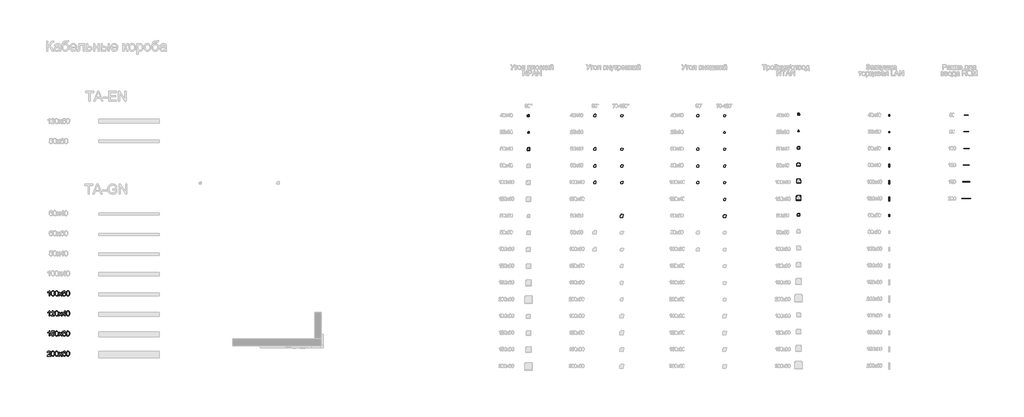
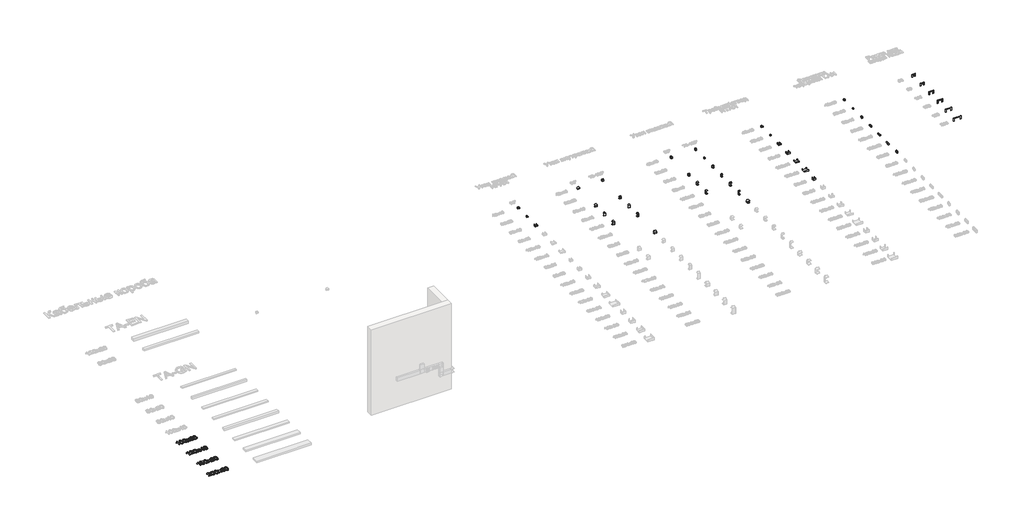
# One storey, part 2 of 28: 37 cable carrier fittings, 10 proxies.
"""IFC4 building model written with IfcOpenShell, lengths in millimetres."""

from ifc_helpers import new_model, si_unit, origin, origin_with_axes, place, context, project, spatial, polyline, outline, extrude, transform, mapped, element, save
from components import electrical_fixtures_9c062871, electrical_fixtures_1bab5402, electrical_fixtures_43228b79, electrical_fixtures_1fa6146b, electrical_fixtures_26f62f1e, electrical_fixtures_be6fdbad, cable_carrier_fitting_6d6397ab, cable_carrier_fitting_56f15a03, cable_carrier_fitting_46b331be, cable_carrier_fitting_994154e6, cable_carrier_fitting_df3f1705, cable_carrier_fitting_e32080dd, cable_carrier_fitting_5f77e72e, cable_carrier_fitting_f86f3801, cable_carrier_fitting_6b526f06, cable_carrier_fitting_899eefb4, cable_carrier_fitting_096d7609, cable_carrier_fitting_4b83aead, cable_carrier_fitting_934f8354, cable_carrier_fitting_116519d1, cable_carrier_fitting_8110d222, cable_carrier_fitting_46b80188, cable_carrier_fitting_0f8daf25, cable_carrier_fitting_9db2d370, cable_carrier_fitting_6e9f0f1c, cable_carrier_fitting_768868bd, cable_carrier_fitting_23137bce, cable_carrier_fitting_88e0e610, cable_carrier_fitting_740a72c5, cable_carrier_fitting_b5b66641, cable_carrier_fitting_7f96d2d7, cable_carrier_fitting_473acd7f, cable_carrier_fitting_3a91f6ff, cable_carrier_fitting_f2974cd6, cable_carrier_fitting_d7720b8f, cable_carrier_fitting_6d36d5f4, cable_carrier_fitting_0baf40f0, cable_carrier_fitting_d6fbcbdb, cable_carrier_fitting_3abe8eb1, cable_carrier_fitting_1446d542, cable_carrier_fitting_89ad0e65, cable_carrier_fitting_4b00b3e3, cable_carrier_fitting_9e77377e

model = new_model("IFC4")

# Units and contexts
model_context = context("Model", 3, world=origin())
ifc_project = project(units=[si_unit("LENGTHUNIT", "METRE", prefix="MILLI")], contexts=[model_context])

# Site, building, storey
site = spatial("IfcSite", under=ifc_project)
building = spatial("IfcBuilding", under=site)
storey = spatial("IfcBuildingStorey", under=building, Name="Этаж 01", Elevation=0.0)

# Proxies
placement = place(None, origin())
element("IfcBuildingElementProxy", 1, Name="150 мм Arial", ObjectType="150 мм Arial", at=placement, inside=storey, context=model_context, shape_type="SweptSolid", body=[
    extrude(outline(polyline([(-501.8873163, -2320.612635), (-520.7228745, -2320.612635), (-520.7228745, -2203.1847022), (-538.5651512, -2215.8950251), (-558.3939908, -2225.4047747), (-558.3939908, -2207.5992861), (-530.784447, -2189.9777385), (-514.0274221, -2169.9281698), (-501.8873163, -2169.9281698), (-501.8873163, -2320.612635)])), origin_with_axes(), (0.0, 0.0, 1.0), 20.0),
    extrude(outline(polyline([(-457.1528657, -2246.484413), (-455.7687097, -2222.3651497), (-451.6162417, -2203.1295199), (-444.7368484, -2188.4832179), (-435.1719165, -2178.1319383), (-422.8524682, -2171.9791119), (-407.7095255, -2169.9281698), (-385.7101822, -2174.7842121), (-370.5166558, -2188.7821221), (-361.6874879, -2211.075771), (-358.2661854, -2246.484413), (-359.6365458, -2270.4657206), (-363.7476271, -2289.6553651), (-370.5856337, -2304.3154626), (-380.13677, -2314.708129), (-392.4838095, -2320.9023421), (-407.7095255, -2322.9670798), (-427.2808477, -2319.3802303), (-442.1432803, -2308.619682), (-453.4004693, -2283.1346568), (-457.1528657, -2246.484413)]), holes=[polyline([(-438.3173075, -2246.4476248), (-436.1100156, -2276.075921), (-429.4881397, -2293.2238205), (-419.6289022, -2301.4045964), (-407.7095255, -2304.1315216), (-395.7901489, -2301.3953993), (-385.9309114, -2293.1870323), (-379.3090355, -2276.0299357), (-377.1017435, -2246.4476248), (-379.2354591, -2217.4861147), (-385.6366058, -2200.204858), (-395.4774492, -2191.6240105), (-407.9302547, -2188.763728), (-419.7208727, -2191.2837196), (-429.1938341, -2198.8436946), (-436.0364392, -2217.2010062), (-438.3173075, -2246.4476248)])]), origin_with_axes(), (0.0, 0.0, 1.0), 20.0),
    extrude(outline(polyline([(-341.785072, -2246.484413), (-340.400916, -2222.3651497), (-336.248448, -2203.1295199), (-329.3690547, -2188.4832179), (-319.8041228, -2178.1319383), (-307.4846745, -2171.9791119), (-292.3417319, -2169.9281698), (-270.3423885, -2174.7842121), (-255.1488621, -2188.7821221), (-246.3196943, -2211.075771), (-242.8983917, -2246.484413), (-244.2687521, -2270.4657206), (-248.3798334, -2289.6553651), (-255.21784, -2304.3154626), (-264.7689763, -2314.708129), (-277.1160158, -2320.9023421), (-292.3417319, -2322.9670798), (-311.913054, -2319.3802303), (-326.7754866, -2308.619682), (-338.0326757, -2283.1346568), (-341.785072, -2246.484413)]), holes=[polyline([(-322.9495139, -2246.4476248), (-320.7422219, -2276.075921), (-314.120346, -2293.2238205), (-304.2611085, -2301.4045964), (-292.3417319, -2304.1315216), (-280.4223552, -2301.3953993), (-270.5631177, -2293.1870323), (-263.9412418, -2276.0299357), (-261.7339499, -2246.4476248), (-263.8676654, -2217.4861147), (-270.2688121, -2200.204858), (-280.1096555, -2191.6240105), (-292.5624611, -2188.763728), (-304.353079, -2191.2837196), (-313.8260404, -2198.8436946), (-320.6686455, -2217.2010062), (-322.9495139, -2246.4476248)])]), origin_with_axes(), (0.0, 0.0, 1.0), 20.0),
    extrude(outline(polyline([(-233.4806126, -2320.612635), (-193.2343224, -2264.9888774), (-231.1261679, -2209.9537309), (-208.464637, -2209.9537309), (-190.1809018, -2236.4412345), (-181.6460395, -2248.9492224), (-174.2516114, -2238.7221029), (-153.4294905, -2209.9537309), (-130.7679596, -2209.9537309), (-170.5727915, -2264.9888774), (-132.2394876, -2320.612635), (-154.9010185, -2320.612635), (-177.9672196, -2287.1721617), (-182.1978625, -2281.0653206), (-210.8190817, -2320.612635), (-233.4806126, -2320.612635)])), origin_with_axes(), (0.0, 0.0, 1.0), 20.0),
    extrude(outline(polyline([(-23.9350282, -2209.9537309), (-42.7705863, -2212.3081757), (-49.907497, -2196.5996145), (-58.4515564, -2190.7226996), (-68.7798434, -2188.763728), (-85.7759916, -2193.3254647), (-98.6334673, -2210.4503716), (-102.537615, -2224.4804712), (-103.9861503, -2244.0196036), (-87.3762782, -2228.9916241), (-66.7932806, -2224.0803995), (-49.3924622, -2227.4373227), (-34.787547, -2237.5080923), (-24.8823243, -2252.8947568), (-21.5805834, -2272.1993645), (-23.1348848, -2285.6868381), (-27.7977891, -2298.1902274), (-35.1830202, -2308.7944259), (-44.9043019, -2316.5843272), (-56.5201759, -2321.3713916), (-69.5891838, -2322.9670798), (-90.9585292, -2318.7364369), (-107.97767, -2306.044508), (-119.1106988, -2283.6404945), (-122.8217085, -2250.2735976), (-118.7014301, -2212.7588311), (-106.3405951, -2187.108259), (-89.4640086, -2174.2231921), (-67.602621, -2169.9281698), (-51.0755224, -2172.5861172), (-37.8409676, -2180.5599595), (-28.5703413, -2193.2242972), (-23.9350282, -2209.9537309)]), holes=[polyline([(-103.9861503, -2271.9050589), (-99.6267487, -2288.2206254), (-88.0384658, -2300.0664256), (-71.0607118, -2304.1315216), (-58.6308988, -2302.0253972), (-48.8590333, -2295.707024), (-42.5268645, -2285.7742101), (-40.4161416, -2272.8247639), (-42.4992734, -2260.3949509), (-48.7486687, -2250.917391), (-58.6860811, -2244.916316), (-71.8332639, -2242.9159577), (-84.2446828, -2244.916316), (-94.6235535, -2250.917391), (-101.6455011, -2260.1650247), (-103.9861503, -2271.9050589)])]), origin_with_axes(), (0.0, 0.0, 1.0), 20.0),
    extrude(outline(polyline([(-5.09947, -2246.484413), (-3.715314, -2222.3651497), (0.437154, -2203.1295199), (7.3165473, -2188.4832179), (16.8814792, -2178.1319383), (29.2009275, -2171.9791119), (44.3438701, -2169.9281698), (66.3432134, -2174.7842121), (81.5367398, -2188.7821221), (90.3659077, -2211.075771), (93.7872103, -2246.484413), (92.4168499, -2270.4657206), (88.3057686, -2289.6553651), (81.467762, -2304.3154626), (71.9166257, -2314.708129), (59.5695862, -2320.9023421), (44.3438701, -2322.9670798), (24.772548, -2319.3802303), (9.9101154, -2308.619682), (-1.3470737, -2283.1346568), (-5.09947, -2246.484413)]), holes=[polyline([(13.7360881, -2246.4476248), (15.9433801, -2276.075921), (22.565256, -2293.2238205), (32.4244935, -2301.4045964), (44.3438701, -2304.1315216), (56.2632468, -2301.3953993), (66.1224842, -2293.1870323), (72.7443602, -2276.0299357), (74.9516521, -2246.4476248), (72.8179366, -2217.4861147), (66.4167898, -2200.204858), (56.5759465, -2191.6240105), (44.1231409, -2188.763728), (32.332523, -2191.2837196), (22.8595616, -2198.8436946), (16.0169565, -2217.2010062), (13.7360881, -2246.4476248)])]), origin_with_axes(), (0.0, 0.0, 1.0), 20.0),
])
element("IfcBuildingElementProxy", 2, Name="150 мм Arial", ObjectType="150 мм Arial", at=placement, inside=storey, context=model_context, shape_type="SweptSolid", body=[
    extrude(outline(polyline([(-501.8873163, -2920.612635), (-520.7228745, -2920.612635), (-520.7228745, -2803.1847022), (-538.5651512, -2815.8950251), (-558.3939908, -2825.4047747), (-558.3939908, -2807.5992861), (-530.784447, -2789.9777385), (-514.0274221, -2769.9281698), (-501.8873163, -2769.9281698), (-501.8873163, -2920.612635)])), origin_with_axes(), (0.0, 0.0, 1.0), 20.0),
    extrude(outline(polyline([(-360.6206302, -2901.7770769), (-360.6206302, -2920.612635), (-459.5073105, -2920.612635), (-457.4839595, -2907.6264006), (-446.0428294, -2887.6320142), (-422.4615935, -2865.7982178), (-389.9408252, -2834.4178836), (-383.8431811, -2823.6021529), (-381.8106331, -2813.0807278), (-383.728218, -2803.6491532), (-389.4809727, -2795.8086682), (-398.3239361, -2790.524963), (-409.5121473, -2788.763728), (-421.2613785, -2790.4835763), (-430.3894505, -2795.6431213), (-436.280161, -2803.8376927), (-438.3173075, -2814.6626204), (-457.1528657, -2812.3081757), (-452.5865304, -2794.0888198), (-442.7134974, -2780.7806887), (-428.0488013, -2772.6412995), (-409.1074771, -2769.9281698), (-390.0281971, -2772.9448022), (-375.3910923, -2781.9946993), (-366.0790793, -2795.5143626), (-362.9750749, -2811.9402937), (-366.3228011, -2829.8009645), (-377.4512314, -2848.2686407), (-404.4353758, -2874.0755626), (-426.1036253, -2892.1937509), (-434.6016994, -2901.7770769), (-360.6206302, -2901.7770769)])), origin_with_axes(), (0.0, 0.0, 1.0), 20.0),
    extrude(outline(polyline([(-341.785072, -2846.484413), (-340.400916, -2822.3651497), (-336.248448, -2803.1295199), (-329.3690547, -2788.4832179), (-319.8041228, -2778.1319383), (-307.4846745, -2771.9791119), (-292.3417319, -2769.9281698), (-270.3423885, -2774.7842121), (-255.1488621, -2788.7821221), (-246.3196943, -2811.075771), (-242.8983917, -2846.484413), (-244.2687521, -2870.4657206), (-248.3798334, -2889.6553651), (-255.21784, -2904.3154626), (-264.7689763, -2914.708129), (-277.1160158, -2920.9023421), (-292.3417319, -2922.9670798), (-311.913054, -2919.3802303), (-326.7754866, -2908.619682), (-338.0326757, -2883.1346568), (-341.785072, -2846.484413)]), holes=[polyline([(-322.9495139, -2846.4476248), (-320.7422219, -2876.075921), (-314.120346, -2893.2238205), (-304.2611085, -2901.4045964), (-292.3417319, -2904.1315216), (-280.4223552, -2901.3953993), (-270.5631177, -2893.1870323), (-263.9412418, -2876.0299357), (-261.7339499, -2846.4476248), (-263.8676654, -2817.4861147), (-270.2688121, -2800.204858), (-280.1096555, -2791.6240105), (-292.5624611, -2788.763728), (-304.353079, -2791.2837196), (-313.8260404, -2798.8436946), (-320.6686455, -2817.2010062), (-322.9495139, -2846.4476248)])]), origin_with_axes(), (0.0, 0.0, 1.0), 20.0),
    extrude(outline(polyline([(-233.4806126, -2920.612635), (-193.2343224, -2864.9888774), (-231.1261679, -2809.9537309), (-208.464637, -2809.9537309), (-190.1809018, -2836.4412345), (-181.6460395, -2848.9492224), (-174.2516114, -2838.7221029), (-153.4294905, -2809.9537309), (-130.7679596, -2809.9537309), (-170.5727915, -2864.9888774), (-132.2394876, -2920.612635), (-154.9010185, -2920.612635), (-177.9672196, -2887.1721617), (-182.1978625, -2881.0653206), (-210.8190817, -2920.612635), (-233.4806126, -2920.612635)])), origin_with_axes(), (0.0, 0.0, 1.0), 20.0),
    extrude(outline(polyline([(-59.2516997, -2920.612635), (-59.2516997, -2885.2959635), (-127.530598, -2885.2959635), (-127.530598, -2866.4604053), (-54.5428102, -2772.2826146), (-40.4161416, -2772.2826146), (-40.4161416, -2866.4604053), (-21.5805834, -2866.4604053), (-21.5805834, -2885.2959635), (-40.4161416, -2885.2959635), (-40.4161416, -2920.612635), (-59.2516997, -2920.612635)]), holes=[polyline([(-59.2516997, -2866.4604053), (-59.2516997, -2808.2614737), (-104.3540323, -2866.4604053), (-59.2516997, -2866.4604053)])]), origin_with_axes(), (0.0, 0.0, 1.0), 20.0),
    extrude(outline(polyline([(-5.09947, -2846.484413), (-3.715314, -2822.3651497), (0.437154, -2803.1295199), (7.3165473, -2788.4832179), (16.8814792, -2778.1319383), (29.2009275, -2771.9791119), (44.3438701, -2769.9281698), (66.3432134, -2774.7842121), (81.5367398, -2788.7821221), (90.3659077, -2811.075771), (93.7872103, -2846.484413), (92.4168499, -2870.4657206), (88.3057686, -2889.6553651), (81.467762, -2904.3154626), (71.9166257, -2914.708129), (59.5695862, -2920.9023421), (44.3438701, -2922.9670798), (24.772548, -2919.3802303), (9.9101154, -2908.619682), (-1.3470737, -2883.1346568), (-5.09947, -2846.484413)]), holes=[polyline([(13.7360881, -2846.4476248), (15.9433801, -2876.075921), (22.565256, -2893.2238205), (32.4244935, -2901.4045964), (44.3438701, -2904.1315216), (56.2632468, -2901.3953993), (66.1224842, -2893.1870323), (72.7443602, -2876.0299357), (74.9516521, -2846.4476248), (72.8179366, -2817.4861147), (66.4167898, -2800.204858), (56.5759465, -2791.6240105), (44.1231409, -2788.763728), (32.332523, -2791.2837196), (22.8595616, -2798.8436946), (16.0169565, -2817.2010062), (13.7360881, -2846.4476248)])]), origin_with_axes(), (0.0, 0.0, 1.0), 20.0),
])
element("IfcBuildingElementProxy", 3, Name="150 мм Arial", ObjectType="150 мм Arial", at=placement, inside=storey, context=model_context, shape_type="SweptSolid", body=[
    extrude(outline(polyline([(-501.8873163, -3520.612635), (-520.7228745, -3520.612635), (-520.7228745, -3403.1847022), (-538.5651512, -3415.8950251), (-558.3939908, -3425.4047747), (-558.3939908, -3407.5992861), (-530.784447, -3389.9777385), (-514.0274221, -3369.9281698), (-501.8873163, -3369.9281698), (-501.8873163, -3520.612635)])), origin_with_axes(), (0.0, 0.0, 1.0), 20.0),
    extrude(outline(polyline([(-457.1528657, -3480.587074), (-438.3173075, -3478.2326292), (-434.8592168, -3489.540402), (-428.8259521, -3497.6384044), (-420.2451045, -3502.5082423), (-409.1442653, -3504.1315216), (-395.6429961, -3501.8736459), (-385.5262412, -3495.1000187), (-379.207868, -3484.5923892), (-377.1017435, -3471.1325067), (-379.0745107, -3458.4589719), (-384.9928123, -3448.7652814), (-394.9026336, -3442.612455), (-408.8499597, -3440.5615129), (-425.3862554, -3443.8356626), (-435.9628628, -3452.3337367), (-454.7984209, -3449.979292), (-438.3173075, -3372.2826146), (-365.3295197, -3372.2826146), (-365.3295197, -3391.1181727), (-423.0869929, -3391.1181727), (-431.1436086, -3432.6152618), (-417.6883247, -3424.4482815), (-403.5892472, -3421.7259547), (-385.9906923, -3425.101272), (-371.3811785, -3435.227224), (-361.5449337, -3450.6598736), (-358.2661854, -3469.9552843), (-361.2184384, -3488.7908425), (-370.0751974, -3504.9040738), (-387.0345574, -3518.4513283), (-409.2178417, -3522.9670798), (-427.7177076, -3520.0654106), (-442.45598, -3511.3604029), (-452.5589393, -3497.8637322), (-457.1528657, -3480.587074)])), origin_with_axes(), (0.0, 0.0, 1.0), 20.0),
    extrude(outline(polyline([(-341.785072, -3446.484413), (-340.400916, -3422.3651497), (-336.248448, -3403.1295199), (-329.3690547, -3388.4832179), (-319.8041228, -3378.1319383), (-307.4846745, -3371.9791119), (-292.3417319, -3369.9281698), (-270.3423885, -3374.7842121), (-255.1488621, -3388.7821221), (-246.3196943, -3411.075771), (-242.8983917, -3446.484413), (-244.2687521, -3470.4657206), (-248.3798334, -3489.6553651), (-255.21784, -3504.3154626), (-264.7689763, -3514.708129), (-277.1160158, -3520.9023421), (-292.3417319, -3522.9670798), (-311.913054, -3519.3802303), (-326.7754866, -3508.619682), (-338.0326757, -3483.1346568), (-341.785072, -3446.484413)]), holes=[polyline([(-322.9495139, -3446.4476248), (-320.7422219, -3476.075921), (-314.120346, -3493.2238205), (-304.2611085, -3501.4045964), (-292.3417319, -3504.1315216), (-280.4223552, -3501.3953993), (-270.5631177, -3493.1870323), (-263.9412418, -3476.0299357), (-261.7339499, -3446.4476248), (-263.8676654, -3417.4861147), (-270.2688121, -3400.204858), (-280.1096555, -3391.6240105), (-292.5624611, -3388.763728), (-304.353079, -3391.2837196), (-313.8260404, -3398.8436946), (-320.6686455, -3417.2010062), (-322.9495139, -3446.4476248)])]), origin_with_axes(), (0.0, 0.0, 1.0), 20.0),
    extrude(outline(polyline([(-233.4806126, -3520.612635), (-193.2343224, -3464.9888774), (-231.1261679, -3409.9537309), (-208.464637, -3409.9537309), (-190.1809018, -3436.4412345), (-181.6460395, -3448.9492224), (-174.2516114, -3438.7221029), (-153.4294905, -3409.9537309), (-130.7679596, -3409.9537309), (-170.5727915, -3464.9888774), (-132.2394876, -3520.612635), (-154.9010185, -3520.612635), (-177.9672196, -3487.1721617), (-182.1978625, -3481.0653206), (-210.8190817, -3520.612635), (-233.4806126, -3520.612635)])), origin_with_axes(), (0.0, 0.0, 1.0), 20.0),
    extrude(outline(polyline([(-23.9350282, -3409.9537309), (-42.7705863, -3412.3081757), (-49.907497, -3396.5996145), (-58.4515564, -3390.7226996), (-68.7798434, -3388.763728), (-85.7759916, -3393.3254647), (-98.6334673, -3410.4503716), (-102.537615, -3424.4804712), (-103.9861503, -3444.0196036), (-87.3762782, -3428.9916241), (-66.7932806, -3424.0803995), (-49.3924622, -3427.4373227), (-34.787547, -3437.5080923), (-24.8823243, -3452.8947568), (-21.5805834, -3472.1993645), (-23.1348848, -3485.6868381), (-27.7977891, -3498.1902274), (-35.1830202, -3508.7944259), (-44.9043019, -3516.5843272), (-56.5201759, -3521.3713916), (-69.5891838, -3522.9670798), (-90.9585292, -3518.7364369), (-107.97767, -3506.044508), (-119.1106988, -3483.6404945), (-122.8217085, -3450.2735976), (-118.7014301, -3412.7588311), (-106.3405951, -3387.108259), (-89.4640086, -3374.2231921), (-67.602621, -3369.9281698), (-51.0755224, -3372.5861172), (-37.8409676, -3380.5599595), (-28.5703413, -3393.2242972), (-23.9350282, -3409.9537309)]), holes=[polyline([(-103.9861503, -3471.9050589), (-99.6267487, -3488.2206254), (-88.0384658, -3500.0664256), (-71.0607118, -3504.1315216), (-58.6308988, -3502.0253972), (-48.8590333, -3495.707024), (-42.5268645, -3485.7742101), (-40.4161416, -3472.8247639), (-42.4992734, -3460.3949509), (-48.7486687, -3450.917391), (-58.6860811, -3444.916316), (-71.8332639, -3442.9159577), (-84.2446828, -3444.916316), (-94.6235535, -3450.917391), (-101.6455011, -3460.1650247), (-103.9861503, -3471.9050589)])]), origin_with_axes(), (0.0, 0.0, 1.0), 20.0),
    extrude(outline(polyline([(-5.09947, -3446.484413), (-3.715314, -3422.3651497), (0.437154, -3403.1295199), (7.3165473, -3388.4832179), (16.8814792, -3378.1319383), (29.2009275, -3371.9791119), (44.3438701, -3369.9281698), (66.3432134, -3374.7842121), (81.5367398, -3388.7821221), (90.3659077, -3411.075771), (93.7872103, -3446.484413), (92.4168499, -3470.4657206), (88.3057686, -3489.6553651), (81.467762, -3504.3154626), (71.9166257, -3514.708129), (59.5695862, -3520.9023421), (44.3438701, -3522.9670798), (24.772548, -3519.3802303), (9.9101154, -3508.619682), (-1.3470737, -3483.1346568), (-5.09947, -3446.484413)]), holes=[polyline([(13.7360881, -3446.4476248), (15.9433801, -3476.075921), (22.565256, -3493.2238205), (32.4244935, -3501.4045964), (44.3438701, -3504.1315216), (56.2632468, -3501.3953993), (66.1224842, -3493.1870323), (72.7443602, -3476.0299357), (74.9516521, -3446.4476248), (72.8179366, -3417.4861147), (66.4167898, -3400.204858), (56.5759465, -3391.6240105), (44.1231409, -3388.763728), (32.332523, -3391.2837196), (22.8595616, -3398.8436946), (16.0169565, -3417.2010062), (13.7360881, -3446.4476248)])]), origin_with_axes(), (0.0, 0.0, 1.0), 20.0),
])
element("IfcBuildingElementProxy", 4, Name="150 мм Arial", ObjectType="150 мм Arial", at=placement, inside=storey, context=model_context, shape_type="SweptSolid", body=[
    extrude(outline(polyline([(-475.9884238, -4101.7770769), (-475.9884238, -4120.612635), (-574.8751041, -4120.612635), (-572.8517532, -4107.6264006), (-561.4106231, -4087.6320142), (-537.8293872, -4065.7982178), (-505.3086189, -4034.4178836), (-499.2109748, -4023.6021529), (-497.1784268, -4013.0807278), (-499.0960117, -4003.6491532), (-504.8487664, -3995.8086682), (-513.6917298, -3990.524963), (-524.879941, -3988.763728), (-536.6291722, -3990.4835763), (-545.7572442, -3995.6431213), (-551.6479547, -4003.8376927), (-553.6851012, -4014.6626204), (-572.5206594, -4012.3081757), (-567.9543241, -3994.0888198), (-558.0812911, -3980.7806887), (-543.416595, -3972.6412995), (-524.4752708, -3969.9281698), (-505.3959908, -3972.9448022), (-490.758886, -3981.9946993), (-481.4468729, -3995.5143626), (-478.3428686, -4011.9402937), (-481.6905948, -4029.8009645), (-492.8190251, -4048.2686407), (-519.8031695, -4074.0755626), (-541.471419, -4092.1937509), (-549.9694931, -4101.7770769), (-475.9884238, -4101.7770769)])), origin_with_axes(), (0.0, 0.0, 1.0), 20.0),
    extrude(outline(polyline([(-457.1528657, -4046.484413), (-455.7687097, -4022.3651497), (-451.6162417, -4003.1295199), (-444.7368484, -3988.4832179), (-435.1719165, -3978.1319383), (-422.8524682, -3971.9791119), (-407.7095255, -3969.9281698), (-385.7101822, -3974.7842121), (-370.5166558, -3988.7821221), (-361.6874879, -4011.075771), (-358.2661854, -4046.484413), (-359.6365458, -4070.4657206), (-363.7476271, -4089.6553651), (-370.5856337, -4104.3154626), (-380.13677, -4114.708129), (-392.4838095, -4120.9023421), (-407.7095255, -4122.9670798), (-427.2808477, -4119.3802303), (-442.1432803, -4108.619682), (-453.4004693, -4083.1346568), (-457.1528657, -4046.484413)]), holes=[polyline([(-438.3173075, -4046.4476248), (-436.1100156, -4076.075921), (-429.4881397, -4093.2238205), (-419.6289022, -4101.4045964), (-407.7095255, -4104.1315216), (-395.7901489, -4101.3953993), (-385.9309114, -4093.1870323), (-379.3090355, -4076.0299357), (-377.1017435, -4046.4476248), (-379.2354591, -4017.4861147), (-385.6366058, -4000.204858), (-395.4774492, -3991.6240105), (-407.9302547, -3988.763728), (-419.7208727, -3991.2837196), (-429.1938341, -3998.8436946), (-436.0364392, -4017.2010062), (-438.3173075, -4046.4476248)])]), origin_with_axes(), (0.0, 0.0, 1.0), 20.0),
    extrude(outline(polyline([(-341.785072, -4046.484413), (-340.400916, -4022.3651497), (-336.248448, -4003.1295199), (-329.3690547, -3988.4832179), (-319.8041228, -3978.1319383), (-307.4846745, -3971.9791119), (-292.3417319, -3969.9281698), (-270.3423885, -3974.7842121), (-255.1488621, -3988.7821221), (-246.3196943, -4011.075771), (-242.8983917, -4046.484413), (-244.2687521, -4070.4657206), (-248.3798334, -4089.6553651), (-255.21784, -4104.3154626), (-264.7689763, -4114.708129), (-277.1160158, -4120.9023421), (-292.3417319, -4122.9670798), (-311.913054, -4119.3802303), (-326.7754866, -4108.619682), (-338.0326757, -4083.1346568), (-341.785072, -4046.484413)]), holes=[polyline([(-322.9495139, -4046.4476248), (-320.7422219, -4076.075921), (-314.120346, -4093.2238205), (-304.2611085, -4101.4045964), (-292.3417319, -4104.1315216), (-280.4223552, -4101.3953993), (-270.5631177, -4093.1870323), (-263.9412418, -4076.0299357), (-261.7339499, -4046.4476248), (-263.8676654, -4017.4861147), (-270.2688121, -4000.204858), (-280.1096555, -3991.6240105), (-292.5624611, -3988.763728), (-304.353079, -3991.2837196), (-313.8260404, -3998.8436946), (-320.6686455, -4017.2010062), (-322.9495139, -4046.4476248)])]), origin_with_axes(), (0.0, 0.0, 1.0), 20.0),
    extrude(outline(polyline([(-233.4806126, -4120.612635), (-193.2343224, -4064.9888774), (-231.1261679, -4009.9537309), (-208.464637, -4009.9537309), (-190.1809018, -4036.4412345), (-181.6460395, -4048.9492224), (-174.2516114, -4038.7221029), (-153.4294905, -4009.9537309), (-130.7679596, -4009.9537309), (-170.5727915, -4064.9888774), (-132.2394876, -4120.612635), (-154.9010185, -4120.612635), (-177.9672196, -4087.1721617), (-182.1978625, -4081.0653206), (-210.8190817, -4120.612635), (-233.4806126, -4120.612635)])), origin_with_axes(), (0.0, 0.0, 1.0), 20.0),
    extrude(outline(polyline([(-23.9350282, -4009.9537309), (-42.7705863, -4012.3081757), (-49.907497, -3996.5996145), (-58.4515564, -3990.7226996), (-68.7798434, -3988.763728), (-85.7759916, -3993.3254647), (-98.6334673, -4010.4503716), (-102.537615, -4024.4804712), (-103.9861503, -4044.0196036), (-87.3762782, -4028.9916241), (-66.7932806, -4024.0803995), (-49.3924622, -4027.4373227), (-34.787547, -4037.5080923), (-24.8823243, -4052.8947568), (-21.5805834, -4072.1993645), (-23.1348848, -4085.6868381), (-27.7977891, -4098.1902274), (-35.1830202, -4108.7944259), (-44.9043019, -4116.5843272), (-56.5201759, -4121.3713916), (-69.5891838, -4122.9670798), (-90.9585292, -4118.7364369), (-107.97767, -4106.044508), (-119.1106988, -4083.6404945), (-122.8217085, -4050.2735976), (-118.7014301, -4012.7588311), (-106.3405951, -3987.108259), (-89.4640086, -3974.2231921), (-67.602621, -3969.9281698), (-51.0755224, -3972.5861172), (-37.8409676, -3980.5599595), (-28.5703413, -3993.2242972), (-23.9350282, -4009.9537309)]), holes=[polyline([(-103.9861503, -4071.9050589), (-99.6267487, -4088.2206254), (-88.0384658, -4100.0664256), (-71.0607118, -4104.1315216), (-58.6308988, -4102.0253972), (-48.8590333, -4095.707024), (-42.5268645, -4085.7742101), (-40.4161416, -4072.8247639), (-42.4992734, -4060.3949509), (-48.7486687, -4050.917391), (-58.6860811, -4044.916316), (-71.8332639, -4042.9159577), (-84.2446828, -4044.916316), (-94.6235535, -4050.917391), (-101.6455011, -4060.1650247), (-103.9861503, -4071.9050589)])]), origin_with_axes(), (0.0, 0.0, 1.0), 20.0),
    extrude(outline(polyline([(-5.09947, -4046.484413), (-3.715314, -4022.3651497), (0.437154, -4003.1295199), (7.3165473, -3988.4832179), (16.8814792, -3978.1319383), (29.2009275, -3971.9791119), (44.3438701, -3969.9281698), (66.3432134, -3974.7842121), (81.5367398, -3988.7821221), (90.3659077, -4011.075771), (93.7872103, -4046.484413), (92.4168499, -4070.4657206), (88.3057686, -4089.6553651), (81.467762, -4104.3154626), (71.9166257, -4114.708129), (59.5695862, -4120.9023421), (44.3438701, -4122.9670798), (24.772548, -4119.3802303), (9.9101154, -4108.619682), (-1.3470737, -4083.1346568), (-5.09947, -4046.484413)]), holes=[polyline([(13.7360881, -4046.4476248), (15.9433801, -4076.075921), (22.565256, -4093.2238205), (32.4244935, -4101.4045964), (44.3438701, -4104.1315216), (56.2632468, -4101.3953993), (66.1224842, -4093.1870323), (72.7443602, -4076.0299357), (74.9516521, -4046.4476248), (72.8179366, -4017.4861147), (66.4167898, -4000.204858), (56.5759465, -3991.6240105), (44.1231409, -3988.763728), (32.332523, -3991.2837196), (22.8595616, -3998.8436946), (16.0169565, -4017.2010062), (13.7360881, -4046.4476248)])]), origin_with_axes(), (0.0, 0.0, 1.0), 20.0),
])
electrical_fixtures_shape = electrical_fixtures_9c062871(model_context)
element("IfcBuildingElementProxy", 5, Name="КНС_РамкаДляВводаRQM_ILC_DKC : TA-GN 60x...", ObjectType="КНС_РамкаДляВводаRQM_ILC_DKC : TA-GN 60x...", at=placement, inside=storey, context=model_context, shape_type="MappedRepresentation", body=[
    mapped(electrical_fixtures_shape, transform((26885.9059986, 3093.7133038, 0.0), x_axis=(1.0, 0.0, 0.0), y_axis=(0.0, 1.0, 0.0), z_axis=(0.0, 0.0, 1.0))),
])
electrical_fixtures_2_shape = electrical_fixtures_1bab5402(model_context)
element("IfcBuildingElementProxy", 6, Name="КНС_РамкаДляВводаRQM_ILC_DKC : TA-GN 60x...", ObjectType="КНС_РамкаДляВводаRQM_ILC_DKC : TA-GN 60x...", at=placement, inside=storey, context=model_context, shape_type="MappedRepresentation", body=[
    mapped(electrical_fixtures_2_shape, transform((26885.9059986, 2593.7133038, 0.0), x_axis=(1.0, 0.0, 0.0), y_axis=(0.0, 1.0, 0.0), z_axis=(0.0, 0.0, 1.0))),
])
electrical_fixtures_3_shape = electrical_fixtures_43228b79(model_context)
element("IfcBuildingElementProxy", 7, Name="КНС_РамкаДляВводаRQM_ILC_DKC : TA-GN 60x...", ObjectType="КНС_РамкаДляВводаRQM_ILC_DKC : TA-GN 60x...", at=placement, inside=storey, context=model_context, shape_type="MappedRepresentation", body=[
    mapped(electrical_fixtures_3_shape, transform((26885.9059986, 2093.7133038, 0.0), x_axis=(1.0, 0.0, 0.0), y_axis=(0.0, 1.0, 0.0), z_axis=(0.0, 0.0, 1.0))),
])
electrical_fixtures_4_shape = electrical_fixtures_1fa6146b(model_context)
element("IfcBuildingElementProxy", 8, Name="КНС_РамкаДляВводаRQM_ILC_DKC : TA-GN 60x...", ObjectType="КНС_РамкаДляВводаRQM_ILC_DKC : TA-GN 60x...", at=placement, inside=storey, context=model_context, shape_type="MappedRepresentation", body=[
    mapped(electrical_fixtures_4_shape, transform((26885.9059986, 1593.7133038, 0.0), x_axis=(1.0, 0.0, 0.0), y_axis=(0.0, 1.0, 0.0), z_axis=(0.0, 0.0, 1.0))),
])
electrical_fixtures_5_shape = electrical_fixtures_26f62f1e(model_context)
element("IfcBuildingElementProxy", 9, Name="КНС_РамкаДляВводаRQM_ILC_DKC : TA-GN 60x...", ObjectType="КНС_РамкаДляВводаRQM_ILC_DKC : TA-GN 60x...", at=placement, inside=storey, context=model_context, shape_type="MappedRepresentation", body=[
    mapped(electrical_fixtures_5_shape, transform((26885.9059986, 1093.7133038, 0.0), x_axis=(1.0, 0.0, 0.0), y_axis=(0.0, 1.0, 0.0), z_axis=(0.0, 0.0, 1.0))),
])
electrical_fixtures_6_shape = electrical_fixtures_be6fdbad(model_context)
element("IfcBuildingElementProxy", 10, Name="КНС_РамкаДляВводаRQM_ILC_DKC : TA-GN 60x...", ObjectType="КНС_РамкаДляВводаRQM_ILC_DKC : TA-GN 60x...", at=placement, inside=storey, context=model_context, shape_type="MappedRepresentation", body=[
    mapped(electrical_fixtures_6_shape, transform((26885.9059986, 593.7133038, 0.0), x_axis=(1.0, 0.0, 0.0), y_axis=(0.0, 1.0, 0.0), z_axis=(0.0, 0.0, 1.0))),
])

# Cable carrier fittings
cable_carrier_fitting_shape = cable_carrier_fitting_6d6397ab(model_context)
element("IfcCableCarrierFitting", 11, ObjectType="КНС_УголВнешний_ILC_DKC : Угол внешний_DKC", at=placement, inside=storey, context=model_context, shape_type="MappedRepresentation", body=[
    mapped(cable_carrier_fitting_shape, transform((18870.2876692, 3060.7911828, 0.0), x_axis=(1.0, 0.0, 0.0), y_axis=(0.0, 1.0, 0.0), z_axis=(0.0, 0.0, 1.0))),
])
cable_carrier_fitting_2_shape = cable_carrier_fitting_56f15a03(model_context)
element("IfcCableCarrierFitting", 12, ObjectType="КНС_УголВнутренний_ILC_DKC : Угол внутренний_DKC", at=placement, inside=storey, context=model_context, shape_type="MappedRepresentation", body=[
    mapped(cable_carrier_fitting_2_shape, transform((15800.2023028, 3060.7911828, 0.0), x_axis=(1.0, 0.0, 0.0), y_axis=(0.0, 1.0, 0.0), z_axis=(0.0, 0.0, 1.0))),
])
cable_carrier_fitting_3_shape = cable_carrier_fitting_46b331be(model_context)
element("IfcCableCarrierFitting", 13, ObjectType="КНС_УголПлоский NPAN_ILC_DKC : Угол плоский NPAN_DKC", at=placement, inside=storey, context=model_context, shape_type="MappedRepresentation", body=[
    mapped(cable_carrier_fitting_3_shape, transform((13813.1010063, 3060.7911828, 0.0), x_axis=(1.0, 0.0, 0.0), y_axis=(0.0, 1.0, 0.0), z_axis=(0.0, 0.0, 1.0))),
])
cable_carrier_fitting_4_shape = cable_carrier_fitting_994154e6(model_context)
element("IfcCableCarrierFitting", 14, ObjectType="КНС_УголПлоский NPAN_ILC_DKC : Угол плоский NPAN_DKC", at=placement, inside=storey, context=model_context, shape_type="MappedRepresentation", body=[
    mapped(cable_carrier_fitting_4_shape, transform((13813.1010063, 2560.7911828, 0.0), x_axis=(1.0, 0.0, 0.0), y_axis=(0.0, 1.0, 0.0), z_axis=(0.0, 0.0, 1.0))),
])
cable_carrier_fitting_5_shape = cable_carrier_fitting_df3f1705(model_context)
element("IfcCableCarrierFitting", 15, ObjectType="КНС_УголПлоский NPAN_ILC_DKC : Угол плоский NPAN_DKC", at=placement, inside=storey, context=model_context, shape_type="MappedRepresentation", body=[
    mapped(cable_carrier_fitting_5_shape, transform((13813.1010063, 2060.7911828, 0.0), x_axis=(1.0, 0.0, 0.0), y_axis=(0.0, 1.0, 0.0), z_axis=(0.0, 0.0, 1.0))),
])
cable_carrier_fitting_6_shape = cable_carrier_fitting_e32080dd(model_context)
element("IfcCableCarrierFitting", 16, ObjectType="КНС_УголВнутренний_ILC_DKC : Угол внутренний_DKC", at=placement, inside=storey, context=model_context, shape_type="MappedRepresentation", body=[
    mapped(cable_carrier_fitting_6_shape, transform((15800.2023028, 2060.7911828, 0.0), x_axis=(1.0, 0.0, 0.0), y_axis=(0.0, 1.0, 0.0), z_axis=(0.0, 0.0, 1.0))),
])
cable_carrier_fitting_7_shape = cable_carrier_fitting_5f77e72e(model_context)
element("IfcCableCarrierFitting", 17, ObjectType="КНС_УголВнутренний_ILC_DKC : Угол внутренний_DKC", at=placement, inside=storey, context=model_context, shape_type="MappedRepresentation", body=[
    mapped(cable_carrier_fitting_7_shape, transform((15800.2023028, 1560.7911828, 0.0), x_axis=(1.0, 0.0, 0.0), y_axis=(0.0, 1.0, 0.0), z_axis=(0.0, 0.0, 1.0))),
])
cable_carrier_fitting_8_shape = cable_carrier_fitting_f86f3801(model_context)
element("IfcCableCarrierFitting", 18, ObjectType="КНС_УголВнутренний_ILC_DKC : Угол внутренний_DKC", at=placement, inside=storey, context=model_context, shape_type="MappedRepresentation", body=[
    mapped(cable_carrier_fitting_8_shape, transform((15800.2023028, 1060.7911828, 0.0), x_axis=(1.0, 0.0, 0.0), y_axis=(0.0, 1.0, 0.0), z_axis=(0.0, 0.0, 1.0))),
])
cable_carrier_fitting_9_shape = cable_carrier_fitting_6b526f06(model_context)
element("IfcCableCarrierFitting", 19, ObjectType="КНС_УголВнутренний_ILC_DKC : Угол внутренний_DKC", at=placement, inside=storey, context=model_context, shape_type="MappedRepresentation", body=[
    mapped(cable_carrier_fitting_9_shape, transform((16600.2023028, 60.7911828, 0.0), x_axis=(1.0, 0.0, 0.0), y_axis=(0.0, 1.0, 0.0), z_axis=(0.0, 0.0, 1.0))),
])
cable_carrier_fitting_10_shape = cable_carrier_fitting_899eefb4(model_context)
element("IfcCableCarrierFitting", 20, ObjectType="КНС_УголВнешний_ILC_DKC : Угол внешний_DKC", at=placement, inside=storey, context=model_context, shape_type="MappedRepresentation", body=[
    mapped(cable_carrier_fitting_10_shape, transform((19670.2876692, 3060.7911828, 0.0), x_axis=(1.0, 0.0, 0.0), y_axis=(0.0, 1.0, 0.0), z_axis=(0.0, 0.0, 1.0))),
])
cable_carrier_fitting_11_shape = cable_carrier_fitting_096d7609(model_context)
element("IfcCableCarrierFitting", 21, ObjectType="КНС_УголВнешний_ILC_DKC : Угол внешний_DKC", at=placement, inside=storey, context=model_context, shape_type="MappedRepresentation", body=[
    mapped(cable_carrier_fitting_11_shape, transform((19670.2876692, 2560.7911828, 0.0), x_axis=(1.0, 0.0, 0.0), y_axis=(0.0, 1.0, 0.0), z_axis=(0.0, 0.0, 1.0))),
])
cable_carrier_fitting_12_shape = cable_carrier_fitting_4b83aead(model_context)
element("IfcCableCarrierFitting", 22, ObjectType="КНС_УголВнешний_ILC_DKC : Угол внешний_DKC", at=placement, inside=storey, context=model_context, shape_type="MappedRepresentation", body=[
    mapped(cable_carrier_fitting_12_shape, transform((18870.2876692, 2060.7911828, 0.0), x_axis=(1.0, 0.0, 0.0), y_axis=(0.0, 1.0, 0.0), z_axis=(0.0, 0.0, 1.0))),
])
cable_carrier_fitting_13_shape = cable_carrier_fitting_934f8354(model_context)
element("IfcCableCarrierFitting", 23, ObjectType="КНС_УголВнешний_ILC_DKC : Угол внешний_DKC", at=placement, inside=storey, context=model_context, shape_type="MappedRepresentation", body=[
    mapped(cable_carrier_fitting_13_shape, transform((19670.2876692, 2060.7911828, 0.0), x_axis=(1.0, 0.0, 0.0), y_axis=(0.0, 1.0, 0.0), z_axis=(0.0, 0.0, 1.0))),
])
cable_carrier_fitting_14_shape = cable_carrier_fitting_116519d1(model_context)
element("IfcCableCarrierFitting", 24, ObjectType="КНС_УголВнешний_ILC_DKC : Угол внешний_DKC", at=placement, inside=storey, context=model_context, shape_type="MappedRepresentation", body=[
    mapped(cable_carrier_fitting_14_shape, transform((18870.2876692, 1560.7911828, 0.0), x_axis=(1.0, 0.0, 0.0), y_axis=(0.0, 1.0, 0.0), z_axis=(0.0, 0.0, 1.0))),
])
cable_carrier_fitting_15_shape = cable_carrier_fitting_8110d222(model_context)
element("IfcCableCarrierFitting", 25, ObjectType="КНС_УголВнешний_ILC_DKC : Угол внешний_DKC", at=placement, inside=storey, context=model_context, shape_type="MappedRepresentation", body=[
    mapped(cable_carrier_fitting_15_shape, transform((19670.2876692, 1560.7911828, 0.0), x_axis=(1.0, 0.0, 0.0), y_axis=(0.0, 1.0, 0.0), z_axis=(0.0, 0.0, 1.0))),
])
cable_carrier_fitting_16_shape = cable_carrier_fitting_46b80188(model_context)
element("IfcCableCarrierFitting", 26, ObjectType="КНС_УголВнешний_ILC_DKC : Угол внешний_DKC", at=placement, inside=storey, context=model_context, shape_type="MappedRepresentation", body=[
    mapped(cable_carrier_fitting_16_shape, transform((18870.2876692, 1060.7911828, 0.0), x_axis=(1.0, 0.0, 0.0), y_axis=(0.0, 1.0, 0.0), z_axis=(0.0, 0.0, 1.0))),
])
cable_carrier_fitting_17_shape = cable_carrier_fitting_0f8daf25(model_context)
element("IfcCableCarrierFitting", 27, ObjectType="КНС_УголВнешний_ILC_DKC : Угол внешний_DKC", at=placement, inside=storey, context=model_context, shape_type="MappedRepresentation", body=[
    mapped(cable_carrier_fitting_17_shape, transform((19670.2876692, 1060.7911828, 0.0), x_axis=(1.0, 0.0, 0.0), y_axis=(0.0, 1.0, 0.0), z_axis=(0.0, 0.0, 1.0))),
])
cable_carrier_fitting_18_shape = cable_carrier_fitting_9db2d370(model_context)
element("IfcCableCarrierFitting", 28, ObjectType="КНС_УголВнешний_ILC_DKC : Угол внешний_DKC", at=placement, inside=storey, context=model_context, shape_type="MappedRepresentation", body=[
    mapped(cable_carrier_fitting_18_shape, transform((19670.2876692, 560.7911828, 0.0), x_axis=(1.0, 0.0, 0.0), y_axis=(0.0, 1.0, 0.0), z_axis=(0.0, 0.0, 1.0))),
])
cable_carrier_fitting_19_shape = cable_carrier_fitting_6e9f0f1c(model_context)
element("IfcCableCarrierFitting", 29, ObjectType="КНС_УголВнешний_ILC_DKC : Угол внешний_DKC", at=placement, inside=storey, context=model_context, shape_type="MappedRepresentation", body=[
    mapped(cable_carrier_fitting_19_shape, transform((19670.2876692, 60.7911828, 0.0), x_axis=(1.0, 0.0, 0.0), y_axis=(0.0, 1.0, 0.0), z_axis=(0.0, 0.0, 1.0))),
])
cable_carrier_fitting_20_shape = cable_carrier_fitting_768868bd(model_context)
element("IfcCableCarrierFitting", 30, ObjectType="КНС_ТройникNTAN_ILC_DKC : Тройник/отвод", at=placement, inside=storey, context=model_context, shape_type="MappedRepresentation", body=[
    mapped(cable_carrier_fitting_20_shape, transform((21873.0522222, 3100.7911828, 0.0), x_axis=(-1.0, 0.0, 0.0), y_axis=(0.0, -1.0, 0.0), z_axis=(0.0, 0.0, 1.0))),
])
cable_carrier_fitting_21_shape = cable_carrier_fitting_23137bce(model_context)
element("IfcCableCarrierFitting", 31, ObjectType="КНС_ТройникNTAN_ILC_DKC : Тройник/отвод", at=placement, inside=storey, context=model_context, shape_type="MappedRepresentation", body=[
    mapped(cable_carrier_fitting_21_shape, transform((21873.0522222, 2600.7911828, 0.0), x_axis=(1.0, 0.0, 0.0), y_axis=(0.0, 1.0, 0.0), z_axis=(0.0, 0.0, 1.0))),
])
cable_carrier_fitting_22_shape = cable_carrier_fitting_88e0e610(model_context)
element("IfcCableCarrierFitting", 32, ObjectType="КНС_ТройникNTAN_ILC_DKC : Тройник/отвод", at=placement, inside=storey, context=model_context, shape_type="MappedRepresentation", body=[
    mapped(cable_carrier_fitting_22_shape, transform((21873.0522222, 2100.7911828, 0.0), x_axis=(1.0, 0.0, 0.0), y_axis=(0.0, 1.0, 0.0), z_axis=(0.0, 0.0, 1.0))),
])
cable_carrier_fitting_23_shape = cable_carrier_fitting_740a72c5(model_context)
element("IfcCableCarrierFitting", 33, ObjectType="КНС_ТройникNTAN_ILC_DKC : Тройник/отвод", at=placement, inside=storey, context=model_context, shape_type="MappedRepresentation", body=[
    mapped(cable_carrier_fitting_23_shape, transform((21873.0522222, 1600.7911828, 0.0), x_axis=(1.0, 0.0, 0.0), y_axis=(0.0, 1.0, 0.0), z_axis=(0.0, 0.0, 1.0))),
])
cable_carrier_fitting_24_shape = cable_carrier_fitting_b5b66641(model_context)
element("IfcCableCarrierFitting", 34, ObjectType="КНС_ТройникNTAN_ILC_DKC : Тройник/отвод", at=placement, inside=storey, context=model_context, shape_type="MappedRepresentation", body=[
    mapped(cable_carrier_fitting_24_shape, transform((21873.0522222, 1100.7911828, 0.0), x_axis=(1.0, 0.0, 0.0), y_axis=(0.0, 1.0, 0.0), z_axis=(0.0, 0.0, 1.0))),
])
cable_carrier_fitting_25_shape = cable_carrier_fitting_7f96d2d7(model_context)
element("IfcCableCarrierFitting", 35, ObjectType="КНС_ТройникNTAN_ILC_DKC : Тройник/отвод", at=placement, inside=storey, context=model_context, shape_type="MappedRepresentation", body=[
    mapped(cable_carrier_fitting_25_shape, transform((21873.0522222, 600.7911828, 0.0), x_axis=(1.0, 0.0, 0.0), y_axis=(0.0, 1.0, 0.0), z_axis=(0.0, 0.0, 1.0))),
])
cable_carrier_fitting_26_shape = cable_carrier_fitting_473acd7f(model_context)
element("IfcCableCarrierFitting", 36, ObjectType="КНС_ТройникNTAN_ILC_DKC : Тройник/отвод", at=placement, inside=storey, context=model_context, shape_type="MappedRepresentation", body=[
    mapped(cable_carrier_fitting_26_shape, transform((21873.0522222, 100.7911828, 0.0), x_axis=(1.0, 0.0, 0.0), y_axis=(0.0, 1.0, 0.0), z_axis=(0.0, 0.0, 1.0))),
])
cable_carrier_fitting_27_shape = cable_carrier_fitting_3a91f6ff(model_context)
element("IfcCableCarrierFitting", 37, ObjectType="КНС_ЗаглушкаТорцеваяLAN_ILC_DKC : Заглушка торцевая LAN_DKC", at=placement, inside=storey, context=model_context, shape_type="MappedRepresentation", body=[
    mapped(cable_carrier_fitting_27_shape, transform((24603.0645547, 3080.7911828, 0.0), x_axis=(1.0, 0.0, 0.0), y_axis=(0.0, 1.0, 0.0), z_axis=(0.0, 0.0, 1.0))),
])
cable_carrier_fitting_28_shape = cable_carrier_fitting_f2974cd6(model_context)
element("IfcCableCarrierFitting", 38, ObjectType="КНС_ЗаглушкаТорцеваяLAN_ILC_DKC : Заглушка торцевая LAN_DKC", at=placement, inside=storey, context=model_context, shape_type="MappedRepresentation", body=[
    mapped(cable_carrier_fitting_28_shape, transform((24603.0645547, 2580.7911828, 0.0), x_axis=(1.0, 0.0, 0.0), y_axis=(0.0, 1.0, 0.0), z_axis=(0.0, 0.0, 1.0))),
])
cable_carrier_fitting_29_shape = cable_carrier_fitting_d7720b8f(model_context)
element("IfcCableCarrierFitting", 39, ObjectType="КНС_ЗаглушкаТорцеваяLAN_ILC_DKC : Заглушка торцевая LAN_DKC", at=placement, inside=storey, context=model_context, shape_type="MappedRepresentation", body=[
    mapped(cable_carrier_fitting_29_shape, transform((24603.0645547, 1080.7911828, 0.0), x_axis=(1.0, 0.0, 0.0), y_axis=(0.0, 1.0, 0.0), z_axis=(0.0, 0.0, 1.0))),
])
cable_carrier_fitting_30_shape = cable_carrier_fitting_6d36d5f4(model_context)
element("IfcCableCarrierFitting", 40, ObjectType="КНС_ЗаглушкаТорцеваяLAN_ILC_DKC : Заглушка торцевая LAN_DKC", at=placement, inside=storey, context=model_context, shape_type="MappedRepresentation", body=[
    mapped(cable_carrier_fitting_30_shape, transform((24603.0645547, 2080.7911828, 0.0), x_axis=(1.0, 0.0, 0.0), y_axis=(0.0, 1.0, 0.0), z_axis=(0.0, 0.0, 1.0))),
])
cable_carrier_fitting_31_shape = cable_carrier_fitting_0baf40f0(model_context)
element("IfcCableCarrierFitting", 41, ObjectType="КНС_ЗаглушкаТорцеваяLAN_ILC_DKC : Заглушка торцевая LAN_DKC", at=placement, inside=storey, context=model_context, shape_type="MappedRepresentation", body=[
    mapped(cable_carrier_fitting_31_shape, transform((24603.0645547, 1580.7911828, 0.0), x_axis=(1.0, 0.0, 0.0), y_axis=(0.0, 1.0, 0.0), z_axis=(0.0, 0.0, 1.0))),
])
cable_carrier_fitting_32_shape = cable_carrier_fitting_d6fbcbdb(model_context)
element("IfcCableCarrierFitting", 42, ObjectType="КНС_ЗаглушкаТорцеваяLAN_ILC_DKC : Заглушка торцевая LAN_DKC", at=placement, inside=storey, context=model_context, shape_type="MappedRepresentation", body=[
    mapped(cable_carrier_fitting_32_shape, transform((24603.0645547, 580.7911828, 0.0), x_axis=(1.0, 0.0, 0.0), y_axis=(0.0, 1.0, 0.0), z_axis=(0.0, 0.0, 1.0))),
])
cable_carrier_fitting_33_shape = cable_carrier_fitting_3abe8eb1(model_context)
element("IfcCableCarrierFitting", 43, ObjectType="КНС_ЗаглушкаТорцеваяLAN_ILC_DKC : Заглушка торцевая LAN_DKC", at=placement, inside=storey, context=model_context, shape_type="MappedRepresentation", body=[
    mapped(cable_carrier_fitting_33_shape, transform((24603.0645547, 80.7911828, 0.0), x_axis=(1.0, 0.0, 0.0), y_axis=(0.0, 1.0, 0.0), z_axis=(0.0, 0.0, 1.0))),
])
cable_carrier_fitting_34_shape = cable_carrier_fitting_1446d542(model_context)
element("IfcCableCarrierFitting", 44, ObjectType="КНС_УголВнутренний_ILC_DKC : Угол внутренний_DKC", at=placement, inside=storey, context=model_context, shape_type="MappedRepresentation", body=[
    mapped(cable_carrier_fitting_34_shape, transform((16600.2023028, 3060.7911828, 0.0), x_axis=(1.0, 0.0, 0.0), y_axis=(0.0, 1.0, 0.0), z_axis=(0.0, 0.0, 1.0))),
])
cable_carrier_fitting_35_shape = cable_carrier_fitting_89ad0e65(model_context)
element("IfcCableCarrierFitting", 45, ObjectType="КНС_УголВнутренний_ILC_DKC : Угол внутренний_DKC", at=placement, inside=storey, context=model_context, shape_type="MappedRepresentation", body=[
    mapped(cable_carrier_fitting_35_shape, transform((16600.2023028, 2060.7911828, 0.0), x_axis=(1.0, 0.0, 0.0), y_axis=(0.0, 1.0, 0.0), z_axis=(0.0, 0.0, 1.0))),
])
cable_carrier_fitting_36_shape = cable_carrier_fitting_4b00b3e3(model_context)
element("IfcCableCarrierFitting", 46, ObjectType="КНС_УголВнутренний_ILC_DKC : Угол внутренний_DKC", at=placement, inside=storey, context=model_context, shape_type="MappedRepresentation", body=[
    mapped(cable_carrier_fitting_36_shape, transform((16600.2023028, 1560.7911828, 0.0), x_axis=(1.0, 0.0, 0.0), y_axis=(0.0, 1.0, 0.0), z_axis=(0.0, 0.0, 1.0))),
])
cable_carrier_fitting_37_shape = cable_carrier_fitting_9e77377e(model_context)
element("IfcCableCarrierFitting", 47, ObjectType="КНС_УголВнутренний_ILC_DKC : Угол внутренний_DKC", at=placement, inside=storey, context=model_context, shape_type="MappedRepresentation", body=[
    mapped(cable_carrier_fitting_37_shape, transform((16600.2023028, 1060.7911828, 0.0), x_axis=(1.0, 0.0, 0.0), y_axis=(0.0, 1.0, 0.0), z_axis=(0.0, 0.0, 1.0))),
])

save(model, "model.ifc")
